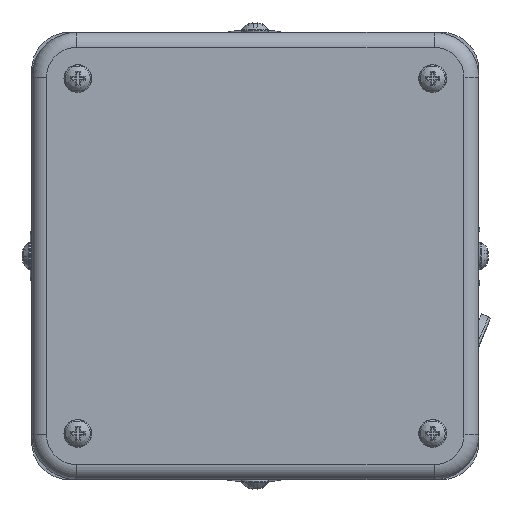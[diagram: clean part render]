
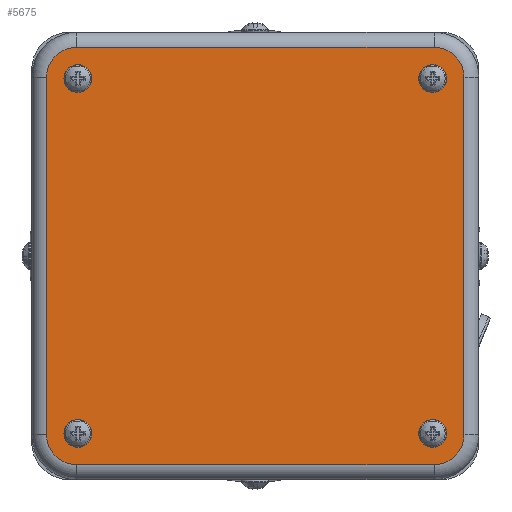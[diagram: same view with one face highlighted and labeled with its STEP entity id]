
A CAD part, left-side view. The second image highlights one B-rep face of the part: STEP entity #5675.
In plain terms, the highlighted planar face has unit normal (-1, 0, 0).
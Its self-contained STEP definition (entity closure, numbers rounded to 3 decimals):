
#1939=CARTESIAN_POINT('',(-108.076,-16.479,34.671));
#1940=VERTEX_POINT('',#1939);
#1941=CARTESIAN_POINT('',(-108.076,-16.479,37.471));
#1942=DIRECTION('',(1.0,0.0,0.0));
#1943=DIRECTION('',(0.0,0.0,1.0));
#1944=AXIS2_PLACEMENT_3D('',#1941,#1942,#1943);
#1945=CIRCLE('',#1944,2.8);
#1946=EDGE_CURVE('',#1940,#1940,#1945,.T.);
#2548=CARTESIAN_POINT('',(-108.076,-16.479,-36.747));
#2549=VERTEX_POINT('',#2548);
#2550=CARTESIAN_POINT('',(-108.076,-16.479,-33.947));
#2551=DIRECTION('',(1.0,0.0,0.0));
#2552=DIRECTION('',(0.0,0.0,1.0));
#2553=AXIS2_PLACEMENT_3D('',#2550,#2551,#2552);
#2554=CIRCLE('',#2553,2.8);
#2555=EDGE_CURVE('',#2549,#2549,#2554,.T.);
#5572=CARTESIAN_POINT('',(-108.076,12.203,-5.266));
#5573=DIRECTION('',(1.0,0.0,0.0));
#5574=DIRECTION('',(0.0,0.0,-1.0));
#5575=AXIS2_PLACEMENT_3D('',#5572,#5573,#5574);
#5576=PLANE('',#5575);
#5577=CARTESIAN_POINT('',(-108.076,-22.77,-34.238));
#5578=VERTEX_POINT('',#5577);
#5579=CARTESIAN_POINT('',(-108.076,-16.77,-40.238));
#5580=VERTEX_POINT('',#5579);
#5581=CARTESIAN_POINT('',(-108.076,-16.77,-34.238));
#5582=DIRECTION('',(1.,0.,0.));
#5583=DIRECTION('',(0.,-0.707,-0.707));
#5584=AXIS2_PLACEMENT_3D('',#5581,#5582,#5583);
#5585=CIRCLE('',#5584,6.);
#5586=EDGE_CURVE('',#5578,#5580,#5585,.T.);
#5587=ORIENTED_EDGE('',*,*,#5586,.F.);
#5588=CARTESIAN_POINT('',(-108.076,-22.77,37.762));
#5589=VERTEX_POINT('',#5588);
#5590=CARTESIAN_POINT('',(-108.076,-22.77,37.762));
#5591=DIRECTION('',(0.0,0.0,-1.0));
#5592=VECTOR('',#5591,72.0);
#5593=LINE('',#5590,#5592);
#5594=EDGE_CURVE('',#5589,#5578,#5593,.T.);
#5595=ORIENTED_EDGE('',*,*,#5594,.F.);
#5596=CARTESIAN_POINT('',(-108.076,-16.77,43.762));
#5597=VERTEX_POINT('',#5596);
#5598=CARTESIAN_POINT('',(-108.076,-16.77,37.762));
#5599=DIRECTION('',(1.,0.,0.));
#5600=DIRECTION('',(0.,-0.707,0.707));
#5601=AXIS2_PLACEMENT_3D('',#5598,#5599,#5600);
#5602=CIRCLE('',#5601,6.);
#5603=EDGE_CURVE('',#5597,#5589,#5602,.T.);
#5604=ORIENTED_EDGE('',*,*,#5603,.F.);
#5605=CARTESIAN_POINT('',(-108.076,55.23,43.762));
#5606=VERTEX_POINT('',#5605);
#5607=CARTESIAN_POINT('',(-108.076,55.23,43.762));
#5608=DIRECTION('',(0.0,-1.0,0.0));
#5609=VECTOR('',#5608,72.0);
#5610=LINE('',#5607,#5609);
#5611=EDGE_CURVE('',#5606,#5597,#5610,.T.);
#5612=ORIENTED_EDGE('',*,*,#5611,.F.);
#5613=CARTESIAN_POINT('',(-108.076,61.23,37.762));
#5614=VERTEX_POINT('',#5613);
#5615=CARTESIAN_POINT('',(-108.076,55.23,37.762));
#5616=DIRECTION('',(1.,0.,0.));
#5617=DIRECTION('',(0.,0.707,0.707));
#5618=AXIS2_PLACEMENT_3D('',#5615,#5616,#5617);
#5619=CIRCLE('',#5618,6.);
#5620=EDGE_CURVE('',#5614,#5606,#5619,.T.);
#5621=ORIENTED_EDGE('',*,*,#5620,.F.);
#5622=CARTESIAN_POINT('',(-108.076,61.23,-34.238));
#5623=VERTEX_POINT('',#5622);
#5624=CARTESIAN_POINT('',(-108.076,61.23,-34.238));
#5625=DIRECTION('',(0.0,0.0,1.0));
#5626=VECTOR('',#5625,72.);
#5627=LINE('',#5624,#5626);
#5628=EDGE_CURVE('',#5623,#5614,#5627,.T.);
#5629=ORIENTED_EDGE('',*,*,#5628,.F.);
#5630=CARTESIAN_POINT('',(-108.076,55.23,-40.238));
#5631=VERTEX_POINT('',#5630);
#5632=CARTESIAN_POINT('',(-108.076,55.23,-34.238));
#5633=DIRECTION('',(1.,0.,0.));
#5634=DIRECTION('',(0.,0.707,-0.707));
#5635=AXIS2_PLACEMENT_3D('',#5632,#5633,#5634);
#5636=CIRCLE('',#5635,6.);
#5637=EDGE_CURVE('',#5631,#5623,#5636,.T.);
#5638=ORIENTED_EDGE('',*,*,#5637,.F.);
#5639=CARTESIAN_POINT('',(-108.076,-16.77,-40.238));
#5640=DIRECTION('',(0.0,1.0,0.0));
#5641=VECTOR('',#5640,72.0);
#5642=LINE('',#5639,#5641);
#5643=EDGE_CURVE('',#5580,#5631,#5642,.T.);
#5644=ORIENTED_EDGE('',*,*,#5643,.F.);
#5645=EDGE_LOOP('',(#5587,#5595,#5604,#5612,#5621,#5629,#5638,#5644));
#5646=FACE_OUTER_BOUND('',#5645,.T.);
#5647=CARTESIAN_POINT('',(-108.076,54.939,34.671));
#5648=VERTEX_POINT('',#5647);
#5649=CARTESIAN_POINT('',(-108.076,54.939,37.471));
#5650=DIRECTION('',(1.0,0.0,0.0));
#5651=DIRECTION('',(0.0,0.0,1.0));
#5652=AXIS2_PLACEMENT_3D('',#5649,#5650,#5651);
#5653=CIRCLE('',#5652,2.8);
#5654=EDGE_CURVE('',#5648,#5648,#5653,.T.);
#5655=ORIENTED_EDGE('',*,*,#5654,.T.);
#5656=EDGE_LOOP('',(#5655));
#5657=FACE_BOUND('',#5656,.T.);
#5658=ORIENTED_EDGE('',*,*,#1946,.T.);
#5659=EDGE_LOOP('',(#5658));
#5660=FACE_BOUND('',#5659,.T.);
#5661=CARTESIAN_POINT('',(-108.076,54.939,-36.747));
#5662=VERTEX_POINT('',#5661);
#5663=CARTESIAN_POINT('',(-108.076,54.939,-33.947));
#5664=DIRECTION('',(1.0,0.0,0.0));
#5665=DIRECTION('',(0.0,0.0,1.0));
#5666=AXIS2_PLACEMENT_3D('',#5663,#5664,#5665);
#5667=CIRCLE('',#5666,2.8);
#5668=EDGE_CURVE('',#5662,#5662,#5667,.T.);
#5669=ORIENTED_EDGE('',*,*,#5668,.T.);
#5670=EDGE_LOOP('',(#5669));
#5671=FACE_BOUND('',#5670,.T.);
#5672=ORIENTED_EDGE('',*,*,#2555,.T.);
#5673=EDGE_LOOP('',(#5672));
#5674=FACE_BOUND('',#5673,.T.);
#5675=ADVANCED_FACE('',(#5646,#5657,#5660,#5671,#5674),#5576,.F.);
